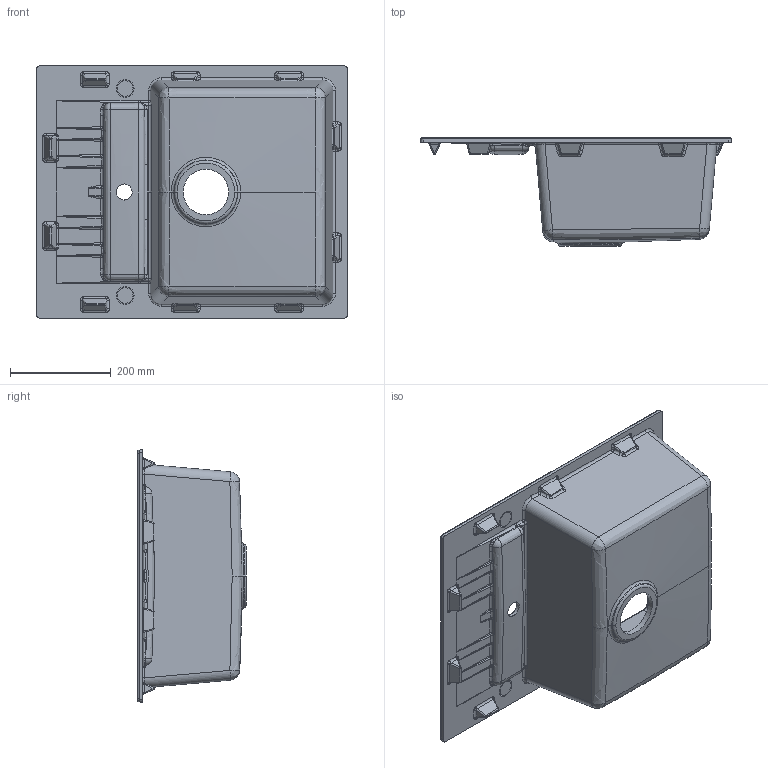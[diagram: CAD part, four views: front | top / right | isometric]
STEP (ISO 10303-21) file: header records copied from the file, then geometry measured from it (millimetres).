
FILE_DESCRIPTION (( 'STEP AP214' ), '1' );
FILE_NAME ('Tip Toe D100N_DH.STEP', '2023-09-04T08:22:37', ( '' ), ( '' ), 'SwSTEP 2.0', 'SolidWorks 2022', '' );
FILE_SCHEMA (( 'AUTOMOTIVE_DESIGN' ));
Length unit declared in the file: millimetre
Products named in the file (1): Tip Toe D100N_DH
Bounding box: 615 x 215.27 x 500 mm (x, y, z)
Volume: 4783832.8 mm3; surface area: 1151200.1 mm2
Topology: 1 solids, 1 shells, 622 faces, 1451 edges, 814 vertices
Faces by surface type: bspline 223, cylinder 201, plane 86, sphere 70, torus 30, cone 12
Entity records: 24622 total; most frequent: CARTESIAN_POINT 12458, ORIENTED_EDGE 2850, DIRECTION 2265, EDGE_CURVE 1425, AXIS2_PLACEMENT_3D 934, VERTEX_POINT 812, EDGE_LOOP 633, ADVANCED_FACE 622
